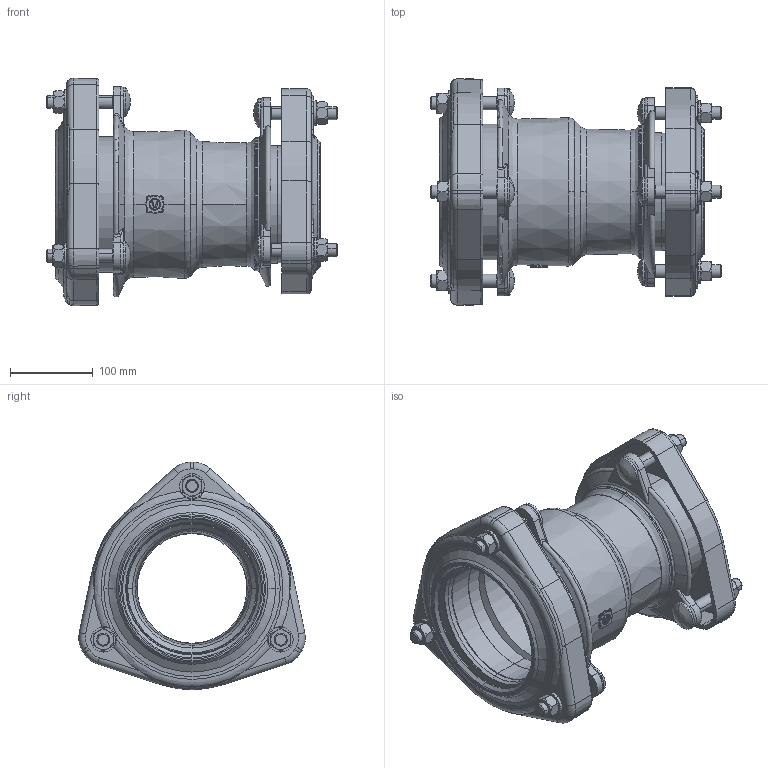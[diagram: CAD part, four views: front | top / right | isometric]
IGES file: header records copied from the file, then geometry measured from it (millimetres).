
Global section: file name: No Iges File Name specified; native system: AutoDesk Inventor R12.0; preprocessor: AutoDesk Inventor Iges Exporter R12.0; date: 20120627.162422; units: millimetre
Bounding box: 352.1 x 274.22 x 275.22 mm (x, y, z)
Volume: 2127899.1 mm3; surface area: 674077 mm2
Topology: 1 solids, 1 shells, 965 faces, 2517 edges, 1585 vertices
Faces by surface type: plane 277, revolution 186, cylinder 175, bspline 121, cone 113, torus 93
